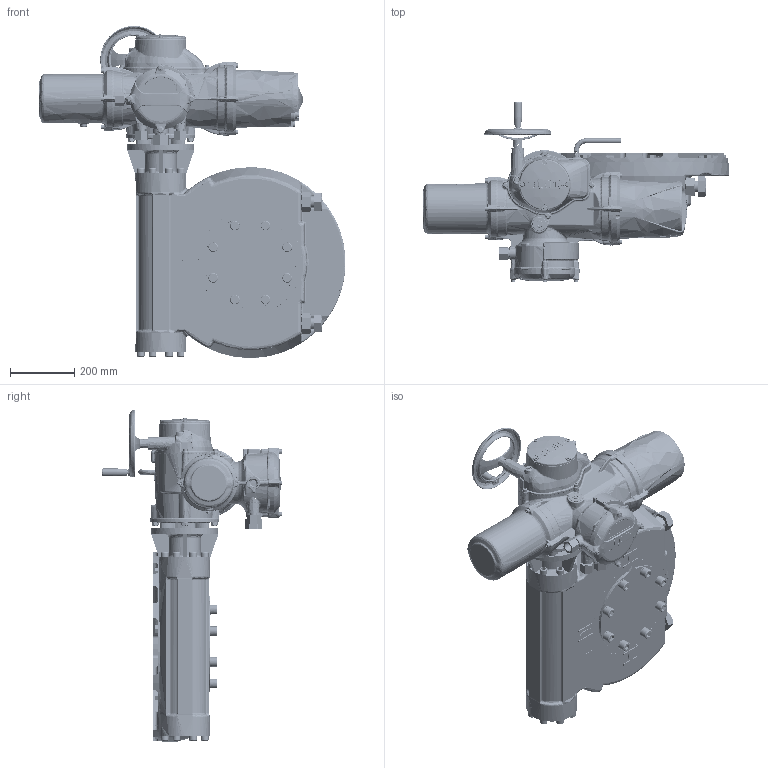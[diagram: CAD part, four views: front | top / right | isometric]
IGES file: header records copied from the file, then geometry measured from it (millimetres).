
Start section: C
Global section: file name: II3SHWIW9STD-1.igs; native system: By Siemens PLM Incorporated; preprocessor: XPlus GENERIC/IGES 16.0.42; author: Author; organization: Title; date: 20150115.164525; units: millimetre
Bounding box: 958.73 x 563.65 x 1037.03 mm (x, y, z)
Surface area: 2639739.2 mm2 (no closed solid volume)
Topology: 0 solids, 0 shells, 7736 faces, 41418 edges, 41025 vertices
Faces by surface type: bspline 7736
